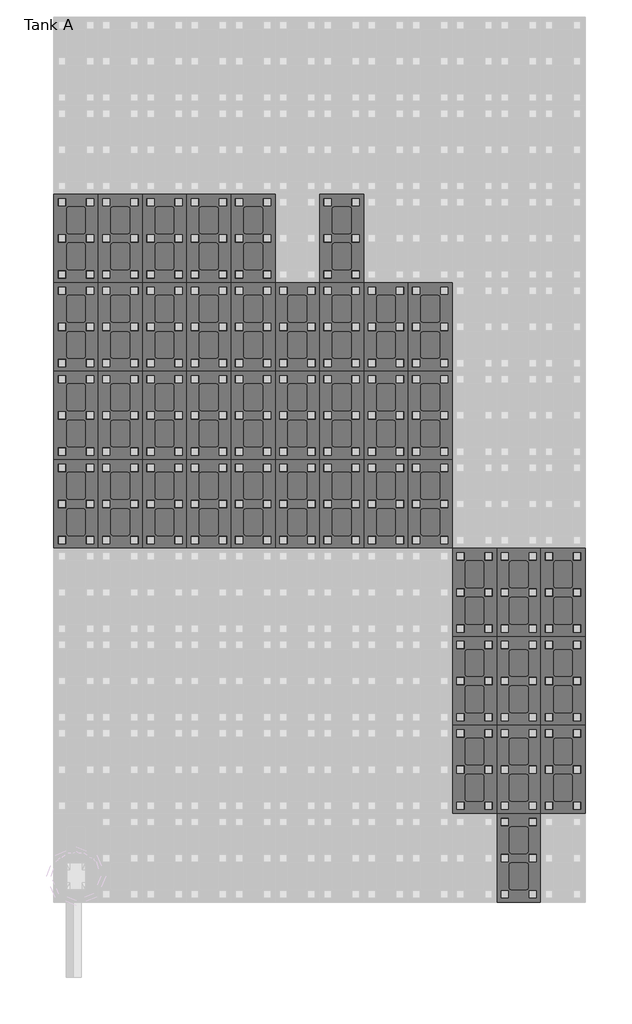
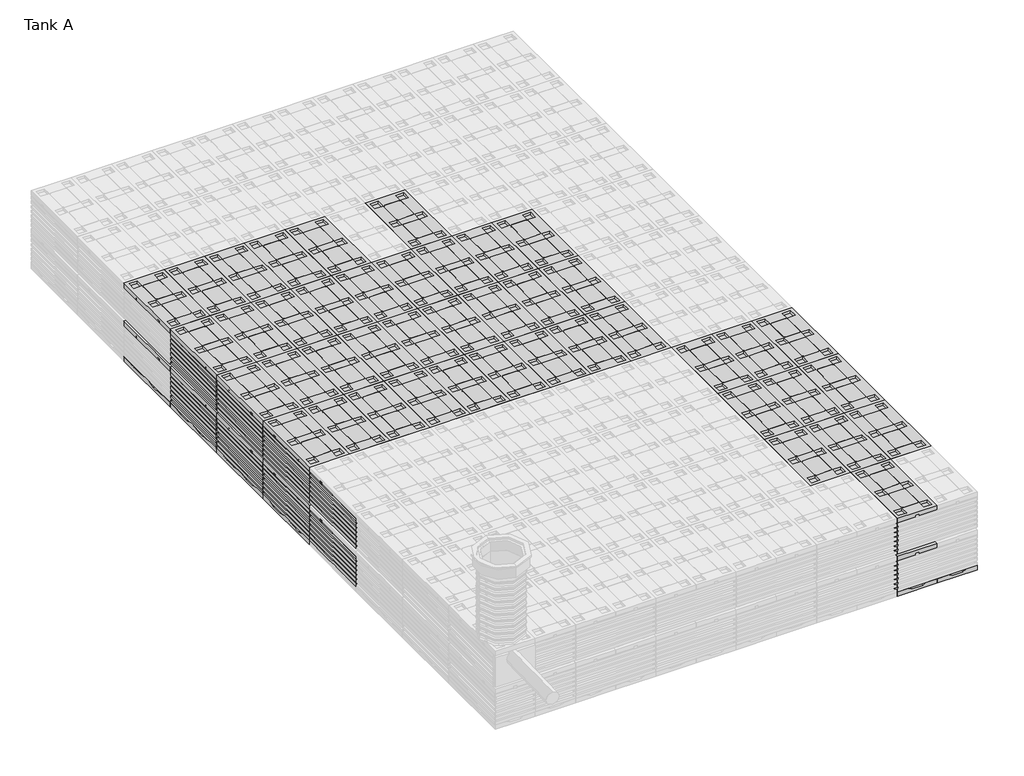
# One storey, part 2 of 6: 142 unitary equipment elements.
"""IFC4 building model written with IfcOpenShell, lengths in millimetres."""

from ifc_helpers import new_model, si_unit, origin, place, context, project, spatial, transform, mapped, element, save
from components import closed_bottom_plate_7d425a97, std_f31acf44, std_d7962c01

model = new_model("IFC4")

# Units and contexts
model_context = context("Model", 3, world=origin())
ifc_project = project(units=[si_unit("LENGTHUNIT", "METRE", prefix="MILLI")], contexts=[model_context])

# Site, building, storey
site = spatial("IfcSite", under=ifc_project)
building = spatial("IfcBuilding", under=site)
storey = spatial("IfcBuildingStorey", under=building, Name="Tank A", Elevation=-2300.0)

# Unitary equipment
placement = place(None, origin())
closed_bottom_plate_shape = closed_bottom_plate_7d425a97(model_context)
element("IfcUnitaryEquipment", 1, ObjectType="Z_ME_UN_Q-Bic_Plus_Bottom_Plate_Wavin_(nested) : Open bottom plate", at=placement, inside=storey, context=model_context, shape_type="MappedRepresentation", body=[
    mapped(closed_bottom_plate_shape, transform((9686.051096, -4439.2220602, -2230.0), x_axis=(0.0, 1.0000000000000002, 0.0), y_axis=(-1.0000000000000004, 0.0, 0.0), z_axis=(0.0, 0.0, 1.0000000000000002))),
])
element("IfcUnitaryEquipment", 2, ObjectType="Z_ME_UN_Q-Bic_Plus_Bottom_Plate_Wavin_(nested) : Open bottom plate", at=placement, inside=storey, context=model_context, shape_type="MappedRepresentation", body=[
    mapped(closed_bottom_plate_shape, transform((9686.051096, -3239.2220602, -2230.0), x_axis=(0.0, 1.0000000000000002, 0.0), y_axis=(-1.0000000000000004, 0.0, 0.0), z_axis=(0.0, 0.0, 1.0000000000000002))),
])
element("IfcUnitaryEquipment", 3, ObjectType="Z_ME_UN_Q-Bic_Plus_Bottom_Plate_Wavin_(nested) : Open bottom plate", at=placement, inside=storey, context=model_context, shape_type="MappedRepresentation", body=[
    mapped(closed_bottom_plate_shape, transform((9086.051096, -4439.2220602, -2230.0), x_axis=(0.0, 1.0, 0.0), y_axis=(-1.0000000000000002, 0.0, 0.0), z_axis=(0.0, 0.0, 1.0000000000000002))),
])
element("IfcUnitaryEquipment", 4, ObjectType="Z_ME_UN_Q-Bic_Plus_Bottom_Plate_Wavin_(nested) : Open bottom plate", at=placement, inside=storey, context=model_context, shape_type="MappedRepresentation", body=[
    mapped(closed_bottom_plate_shape, transform((9686.051096, -2039.2220602, -2230.0), x_axis=(0.0, 1.0, 0.0), y_axis=(-1.0000000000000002, 0.0, 0.0), z_axis=(0.0, 0.0, 1.0000000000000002))),
])
element("IfcUnitaryEquipment", 5, ObjectType="Z_ME_UN_Q-Bic_Plus_Bottom_Plate_Wavin_(nested) : Open bottom plate", at=placement, inside=storey, context=model_context, shape_type="MappedRepresentation", body=[
    mapped(closed_bottom_plate_shape, transform((9686.051096, -839.2220602, -2230.0), x_axis=(0.0, 1.0, 0.0), y_axis=(-1.0000000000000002, 0.0, 0.0), z_axis=(0.0, 0.0, 1.0000000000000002))),
])
element("IfcUnitaryEquipment", 6, ObjectType="Z_ME_UN_Q-Bic_Plus_Bottom_Plate_Wavin_(nested) : Open bottom plate", at=placement, inside=storey, context=model_context, shape_type="MappedRepresentation", body=[
    mapped(closed_bottom_plate_shape, transform((9086.051096, -3239.2220602, -2230.0), x_axis=(0.0, 1.0, 0.0), y_axis=(-1.0000000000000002, 0.0, 0.0), z_axis=(0.0, 0.0, 1.0000000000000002))),
])
element("IfcUnitaryEquipment", 7, ObjectType="Z_ME_UN_Q-Bic_Plus_Bottom_Plate_Wavin_(nested) : Open bottom plate", at=placement, inside=storey, context=model_context, shape_type="MappedRepresentation", body=[
    mapped(closed_bottom_plate_shape, transform((9086.051096, -2039.2220602, -2230.0), x_axis=(0.0, 1.0, 0.0), y_axis=(-1.0000000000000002, 0.0, 0.0), z_axis=(0.0, 0.0, 1.0000000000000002))),
])
element("IfcUnitaryEquipment", 8, ObjectType="Z_ME_UN_Q-Bic_Plus_Bottom_Plate_Wavin_(nested) : Open bottom plate", at=placement, inside=storey, context=model_context, shape_type="MappedRepresentation", body=[
    mapped(closed_bottom_plate_shape, transform((9086.051096, -839.2220602, -2230.0), x_axis=(0.0, 1.0, 0.0), y_axis=(-1.0000000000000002, 0.0, 0.0), z_axis=(0.0, 0.0, 1.0000000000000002))),
])
element("IfcUnitaryEquipment", 9, ObjectType="Z_ME_UN_Q-Bic_Plus_Bottom_Plate_Wavin_(nested) : Open bottom plate", at=placement, inside=storey, context=model_context, shape_type="MappedRepresentation", body=[
    mapped(closed_bottom_plate_shape, transform((8486.051096, -3239.2220602, -2230.0), x_axis=(0.0, 1.0, 0.0), y_axis=(-1.0000000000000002, 0.0, 0.0), z_axis=(0.0, 0.0, 1.0000000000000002))),
])
element("IfcUnitaryEquipment", 10, ObjectType="Z_ME_UN_Q-Bic_Plus_Bottom_Plate_Wavin_(nested) : Open bottom plate", at=placement, inside=storey, context=model_context, shape_type="MappedRepresentation", body=[
    mapped(closed_bottom_plate_shape, transform((8486.051096, -2039.2220602, -2230.0), x_axis=(0.0, 1.0, 0.0), y_axis=(-1.0000000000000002, 0.0, 0.0), z_axis=(0.0, 0.0, 1.0000000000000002))),
])
element("IfcUnitaryEquipment", 11, ObjectType="Z_ME_UN_Q-Bic_Plus_Bottom_Plate_Wavin_(nested) : Open bottom plate", at=placement, inside=storey, context=model_context, shape_type="MappedRepresentation", body=[
    mapped(closed_bottom_plate_shape, transform((8486.051096, -839.2220602, -2230.0), x_axis=(0.0, 1.0, 0.0), y_axis=(-1.0000000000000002, 0.0, 0.0), z_axis=(0.0, 0.0, 1.0000000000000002))),
])
element("IfcUnitaryEquipment", 12, ObjectType="Z_ME_UN_Q-Bic_Plus_Bottom_Plate_Wavin_(nested) : Open bottom plate", at=placement, inside=storey, context=model_context, shape_type="MappedRepresentation", body=[
    mapped(closed_bottom_plate_shape, transform((7886.051096, 360.7779398, -2230.0), x_axis=(0.0, 1.0, 0.0), y_axis=(-1.0000000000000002, 0.0, 0.0), z_axis=(0.0, 0.0, 1.0000000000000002))),
])
element("IfcUnitaryEquipment", 13, ObjectType="Z_ME_UN_Q-Bic_Plus_Bottom_Plate_Wavin_(nested) : Open bottom plate", at=placement, inside=storey, context=model_context, shape_type="MappedRepresentation", body=[
    mapped(closed_bottom_plate_shape, transform((7886.051096, 1560.7779398, -2230.0), x_axis=(0.0, 1.0, 0.0), y_axis=(-1.0000000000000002, 0.0, 0.0), z_axis=(0.0, 0.0, 1.0000000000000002))),
])
element("IfcUnitaryEquipment", 14, ObjectType="Z_ME_UN_Q-Bic_Plus_Bottom_Plate_Wavin_(nested) : Open bottom plate", at=placement, inside=storey, context=model_context, shape_type="MappedRepresentation", body=[
    mapped(closed_bottom_plate_shape, transform((7886.051096, 2760.7779398, -2230.0), x_axis=(0.0, 1.0, 0.0), y_axis=(-1.0000000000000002, 0.0, 0.0), z_axis=(0.0, 0.0, 1.0000000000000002))),
])
element("IfcUnitaryEquipment", 15, ObjectType="Z_ME_UN_Q-Bic_Plus_Bottom_Plate_Wavin_(nested) : Open bottom plate", at=placement, inside=storey, context=model_context, shape_type="MappedRepresentation", body=[
    mapped(closed_bottom_plate_shape, transform((7286.051096, 360.7779398, -2230.0), x_axis=(0.0, 1.0, 0.0), y_axis=(-1.0000000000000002, 0.0, 0.0), z_axis=(0.0, 0.0, 1.0000000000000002))),
])
element("IfcUnitaryEquipment", 16, ObjectType="Z_ME_UN_Q-Bic_Plus_Bottom_Plate_Wavin_(nested) : Open bottom plate", at=placement, inside=storey, context=model_context, shape_type="MappedRepresentation", body=[
    mapped(closed_bottom_plate_shape, transform((7286.051096, 1560.7779398, -2230.0), x_axis=(0.0, 1.0, 0.0), y_axis=(-1.0000000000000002, 0.0, 0.0), z_axis=(0.0, 0.0, 1.0000000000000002))),
])
element("IfcUnitaryEquipment", 17, ObjectType="Z_ME_UN_Q-Bic_Plus_Bottom_Plate_Wavin_(nested) : Open bottom plate", at=placement, inside=storey, context=model_context, shape_type="MappedRepresentation", body=[
    mapped(closed_bottom_plate_shape, transform((7286.051096, 2760.7779398, -2230.0), x_axis=(0.0, 1.0, 0.0), y_axis=(-1.0000000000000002, 0.0, 0.0), z_axis=(0.0, 0.0, 1.0000000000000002))),
])
element("IfcUnitaryEquipment", 18, ObjectType="Z_ME_UN_Q-Bic_Plus_Bottom_Plate_Wavin_(nested) : Open bottom plate", at=placement, inside=storey, context=model_context, shape_type="MappedRepresentation", body=[
    mapped(closed_bottom_plate_shape, transform((6686.051096, 360.7779398, -2230.0), x_axis=(0.0, 1.0, 0.0), y_axis=(-1.0000000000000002, 0.0, 0.0), z_axis=(0.0, 0.0, 1.0000000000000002))),
])
element("IfcUnitaryEquipment", 19, ObjectType="Z_ME_UN_Q-Bic_Plus_Bottom_Plate_Wavin_(nested) : Open bottom plate", at=placement, inside=storey, context=model_context, shape_type="MappedRepresentation", body=[
    mapped(closed_bottom_plate_shape, transform((6686.051096, 1560.7779398, -2230.0), x_axis=(0.0, 1.0, 0.0), y_axis=(-1.0000000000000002, 0.0, 0.0), z_axis=(0.0, 0.0, 1.0000000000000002))),
])
element("IfcUnitaryEquipment", 20, ObjectType="Z_ME_UN_Q-Bic_Plus_Bottom_Plate_Wavin_(nested) : Open bottom plate", at=placement, inside=storey, context=model_context, shape_type="MappedRepresentation", body=[
    mapped(closed_bottom_plate_shape, transform((6686.051096, 2760.7779398, -2230.0), x_axis=(0.0, 1.0, 0.0), y_axis=(-1.0000000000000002, 0.0, 0.0), z_axis=(0.0, 0.0, 1.0000000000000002))),
])
element("IfcUnitaryEquipment", 21, ObjectType="Z_ME_UN_Q-Bic_Plus_Bottom_Plate_Wavin_(nested) : Open bottom plate", at=placement, inside=storey, context=model_context, shape_type="MappedRepresentation", body=[
    mapped(closed_bottom_plate_shape, transform((6086.051096, 360.7779398, -2230.0), x_axis=(0.0, 1.0, 0.0), y_axis=(-1.0000000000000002, 0.0, 0.0), z_axis=(0.0, 0.0, 1.0000000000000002))),
])
element("IfcUnitaryEquipment", 22, ObjectType="Z_ME_UN_Q-Bic_Plus_Bottom_Plate_Wavin_(nested) : Open bottom plate", at=placement, inside=storey, context=model_context, shape_type="MappedRepresentation", body=[
    mapped(closed_bottom_plate_shape, transform((6086.051096, 1560.7779398, -2230.0), x_axis=(0.0, 1.0, 0.0), y_axis=(-1.0000000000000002, 0.0, 0.0), z_axis=(0.0, 0.0, 1.0000000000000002))),
])
element("IfcUnitaryEquipment", 23, ObjectType="Z_ME_UN_Q-Bic_Plus_Bottom_Plate_Wavin_(nested) : Open bottom plate", at=placement, inside=storey, context=model_context, shape_type="MappedRepresentation", body=[
    mapped(closed_bottom_plate_shape, transform((6086.051096, 2760.7779398, -2230.0), x_axis=(0.0, 1.0, 0.0), y_axis=(-1.0000000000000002, 0.0, 0.0), z_axis=(0.0, 0.0, 1.0000000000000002))),
])
element("IfcUnitaryEquipment", 24, ObjectType="Z_ME_UN_Q-Bic_Plus_Bottom_Plate_Wavin_(nested) : Open bottom plate", at=placement, inside=storey, context=model_context, shape_type="MappedRepresentation", body=[
    mapped(closed_bottom_plate_shape, transform((5486.051096, 360.7779398, -2230.0), x_axis=(0.0, 1.0, 0.0), y_axis=(-1.0000000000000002, 0.0, 0.0), z_axis=(0.0, 0.0, 1.0000000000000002))),
])
element("IfcUnitaryEquipment", 25, ObjectType="Z_ME_UN_Q-Bic_Plus_Bottom_Plate_Wavin_(nested) : Open bottom plate", at=placement, inside=storey, context=model_context, shape_type="MappedRepresentation", body=[
    mapped(closed_bottom_plate_shape, transform((5486.051096, 1560.7779398, -2230.0), x_axis=(0.0, 1.0, 0.0), y_axis=(-1.0000000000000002, 0.0, 0.0), z_axis=(0.0, 0.0, 1.0000000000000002))),
])
element("IfcUnitaryEquipment", 26, ObjectType="Z_ME_UN_Q-Bic_Plus_Bottom_Plate_Wavin_(nested) : Open bottom plate", at=placement, inside=storey, context=model_context, shape_type="MappedRepresentation", body=[
    mapped(closed_bottom_plate_shape, transform((5486.051096, 2760.7779398, -2230.0), x_axis=(0.0, 1.0, 0.0), y_axis=(-1.0000000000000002, 0.0, 0.0), z_axis=(0.0, 0.0, 1.0000000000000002))),
])
element("IfcUnitaryEquipment", 27, ObjectType="Z_ME_UN_Q-Bic_Plus_Bottom_Plate_Wavin_(nested) : Open bottom plate", at=placement, inside=storey, context=model_context, shape_type="MappedRepresentation", body=[
    mapped(closed_bottom_plate_shape, transform((5486.051096, 3960.7779398, -2230.0), x_axis=(0.0, 1.0, 0.0), y_axis=(-1.0000000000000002, 0.0, 0.0), z_axis=(0.0, 0.0, 1.0000000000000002))),
])
element("IfcUnitaryEquipment", 28, ObjectType="Z_ME_UN_Q-Bic_Plus_Bottom_Plate_Wavin_(nested) : Open bottom plate", at=placement, inside=storey, context=model_context, shape_type="MappedRepresentation", body=[
    mapped(closed_bottom_plate_shape, transform((4886.051096, 360.7779398, -2230.0), x_axis=(0.0, 1.0, 0.0), y_axis=(-1.0000000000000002, 0.0, 0.0), z_axis=(0.0, 0.0, 1.0000000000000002))),
])
element("IfcUnitaryEquipment", 29, ObjectType="Z_ME_UN_Q-Bic_Plus_Bottom_Plate_Wavin_(nested) : Open bottom plate", at=placement, inside=storey, context=model_context, shape_type="MappedRepresentation", body=[
    mapped(closed_bottom_plate_shape, transform((4886.051096, 1560.7779398, -2230.0), x_axis=(0.0, 1.0, 0.0), y_axis=(-1.0000000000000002, 0.0, 0.0), z_axis=(0.0, 0.0, 1.0000000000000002))),
])
element("IfcUnitaryEquipment", 30, ObjectType="Z_ME_UN_Q-Bic_Plus_Bottom_Plate_Wavin_(nested) : Open bottom plate", at=placement, inside=storey, context=model_context, shape_type="MappedRepresentation", body=[
    mapped(closed_bottom_plate_shape, transform((4886.051096, 2760.7779398, -2230.0), x_axis=(0.0, 1.0, 0.0), y_axis=(-1.0000000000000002, 0.0, 0.0), z_axis=(0.0, 0.0, 1.0000000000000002))),
])
element("IfcUnitaryEquipment", 31, ObjectType="Z_ME_UN_Q-Bic_Plus_Bottom_Plate_Wavin_(nested) : Open bottom plate", at=placement, inside=storey, context=model_context, shape_type="MappedRepresentation", body=[
    mapped(closed_bottom_plate_shape, transform((4886.051096, 3960.7779398, -2230.0), x_axis=(0.0, 1.0, 0.0), y_axis=(-1.0000000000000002, 0.0, 0.0), z_axis=(0.0, 0.0, 1.0000000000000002))),
])
element("IfcUnitaryEquipment", 32, ObjectType="Z_ME_UN_Q-Bic_Plus_Bottom_Plate_Wavin_(nested) : Open bottom plate", at=placement, inside=storey, context=model_context, shape_type="MappedRepresentation", body=[
    mapped(closed_bottom_plate_shape, transform((4286.051096, 360.7779398, -2230.0), x_axis=(0.0, 1.0, 0.0), y_axis=(-1.0000000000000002, 0.0, 0.0), z_axis=(0.0, 0.0, 1.0000000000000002))),
])
element("IfcUnitaryEquipment", 33, ObjectType="Z_ME_UN_Q-Bic_Plus_Bottom_Plate_Wavin_(nested) : Open bottom plate", at=placement, inside=storey, context=model_context, shape_type="MappedRepresentation", body=[
    mapped(closed_bottom_plate_shape, transform((4286.051096, 1560.7779398, -2230.0), x_axis=(0.0, 1.0, 0.0), y_axis=(-1.0000000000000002, 0.0, 0.0), z_axis=(0.0, 0.0, 1.0000000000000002))),
])
element("IfcUnitaryEquipment", 34, ObjectType="Z_ME_UN_Q-Bic_Plus_Bottom_Plate_Wavin_(nested) : Open bottom plate", at=placement, inside=storey, context=model_context, shape_type="MappedRepresentation", body=[
    mapped(closed_bottom_plate_shape, transform((4286.051096, 2760.7779398, -2230.0), x_axis=(0.0, 1.0, 0.0), y_axis=(-1.0000000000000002, 0.0, 0.0), z_axis=(0.0, 0.0, 1.0000000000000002))),
])
element("IfcUnitaryEquipment", 35, ObjectType="Z_ME_UN_Q-Bic_Plus_Bottom_Plate_Wavin_(nested) : Open bottom plate", at=placement, inside=storey, context=model_context, shape_type="MappedRepresentation", body=[
    mapped(closed_bottom_plate_shape, transform((4286.051096, 3960.7779398, -2230.0), x_axis=(0.0, 1.0, 0.0), y_axis=(-1.0000000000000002, 0.0, 0.0), z_axis=(0.0, 0.0, 1.0000000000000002))),
])
element("IfcUnitaryEquipment", 36, ObjectType="Z_ME_UN_Q-Bic_Plus_Bottom_Plate_Wavin_(nested) : Open bottom plate", at=placement, inside=storey, context=model_context, shape_type="MappedRepresentation", body=[
    mapped(closed_bottom_plate_shape, transform((3686.051096, 360.7779398, -2230.0), x_axis=(0.0, 1.0, 0.0), y_axis=(-1.0000000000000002, 0.0, 0.0), z_axis=(0.0, 0.0, 1.0000000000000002))),
])
element("IfcUnitaryEquipment", 37, ObjectType="Z_ME_UN_Q-Bic_Plus_Bottom_Plate_Wavin_(nested) : Open bottom plate", at=placement, inside=storey, context=model_context, shape_type="MappedRepresentation", body=[
    mapped(closed_bottom_plate_shape, transform((3686.051096, 1560.7779398, -2230.0), x_axis=(0.0, 1.0, 0.0), y_axis=(-1.0000000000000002, 0.0, 0.0), z_axis=(0.0, 0.0, 1.0000000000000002))),
])
element("IfcUnitaryEquipment", 38, ObjectType="Z_ME_UN_Q-Bic_Plus_Bottom_Plate_Wavin_(nested) : Open bottom plate", at=placement, inside=storey, context=model_context, shape_type="MappedRepresentation", body=[
    mapped(closed_bottom_plate_shape, transform((3686.051096, 2760.7779398, -2230.0), x_axis=(0.0, 1.0, 0.0), y_axis=(-1.0000000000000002, 0.0, 0.0), z_axis=(0.0, 0.0, 1.0000000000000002))),
])
element("IfcUnitaryEquipment", 39, ObjectType="Z_ME_UN_Q-Bic_Plus_Bottom_Plate_Wavin_(nested) : Open bottom plate", at=placement, inside=storey, context=model_context, shape_type="MappedRepresentation", body=[
    mapped(closed_bottom_plate_shape, transform((3686.051096, 3960.7779398, -2230.0), x_axis=(0.0, 1.0, 0.0), y_axis=(-1.0000000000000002, 0.0, 0.0), z_axis=(0.0, 0.0, 1.0000000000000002))),
])
element("IfcUnitaryEquipment", 40, ObjectType="Z_ME_UN_Q-Bic_Plus_Bottom_Plate_Wavin_(nested) : Open bottom plate", at=placement, inside=storey, context=model_context, shape_type="MappedRepresentation", body=[
    mapped(closed_bottom_plate_shape, transform((3086.051096, 360.7779398, -2230.0), x_axis=(0.0, 1.0, 0.0), y_axis=(-1.0000000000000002, 0.0, 0.0), z_axis=(0.0, 0.0, 1.0000000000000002))),
])
element("IfcUnitaryEquipment", 41, ObjectType="Z_ME_UN_Q-Bic_Plus_Bottom_Plate_Wavin_(nested) : Open bottom plate", at=placement, inside=storey, context=model_context, shape_type="MappedRepresentation", body=[
    mapped(closed_bottom_plate_shape, transform((3086.051096, 1560.7779398, -2230.0), x_axis=(0.0, 1.0, 0.0), y_axis=(-1.0000000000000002, 0.0, 0.0), z_axis=(0.0, 0.0, 1.0000000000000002))),
])
element("IfcUnitaryEquipment", 42, ObjectType="Z_ME_UN_Q-Bic_Plus_Bottom_Plate_Wavin_(nested) : Open bottom plate", at=placement, inside=storey, context=model_context, shape_type="MappedRepresentation", body=[
    mapped(closed_bottom_plate_shape, transform((3086.051096, 2760.7779398, -2230.0), x_axis=(0.0, 1.0, 0.0), y_axis=(-1.0000000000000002, 0.0, 0.0), z_axis=(0.0, 0.0, 1.0000000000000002))),
])
element("IfcUnitaryEquipment", 43, ObjectType="Z_ME_UN_Q-Bic_Plus_Bottom_Plate_Wavin_(nested) : Open bottom plate", at=placement, inside=storey, context=model_context, shape_type="MappedRepresentation", body=[
    mapped(closed_bottom_plate_shape, transform((3086.051096, 3960.7779398, -2230.0), x_axis=(0.0, 1.0, 0.0), y_axis=(-1.0000000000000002, 0.0, 0.0), z_axis=(0.0, 0.0, 1.0000000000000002))),
])
std_shape = std_f31acf44(model_context)
element("IfcUnitaryEquipment", 44, ObjectType="Z_ME_UN_Q-Bic_Plus_Lateral_Side_Plate_Wavin_(nested) : std", at=placement, inside=storey, context=model_context, shape_type="MappedRepresentation", body=[
    mapped(std_shape, transform((9686.051096, -839.2220602, -2330.0), x_axis=(0.0, 1.0000000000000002, 0.0), y_axis=(-1.0000000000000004, 0.0, 0.0), z_axis=(0.0, 0.0, 1.0000000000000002))),
])
element("IfcUnitaryEquipment", 45, ObjectType="Z_ME_UN_Q-Bic_Plus_Lateral_Side_Plate_Wavin_(nested) : std", at=placement, inside=storey, context=model_context, shape_type="MappedRepresentation", body=[
    mapped(std_shape, transform((9686.051096, -839.2220602, -1730.0), x_axis=(0.0, 1.0000000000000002, 0.0), y_axis=(-1.0000000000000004, 0.0, 0.0), z_axis=(0.0, 0.0, 1.0000000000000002))),
])
element("IfcUnitaryEquipment", 46, ObjectType="Z_ME_UN_Q-Bic_Plus_Lateral_Side_Plate_Wavin_(nested) : std", at=placement, inside=storey, context=model_context, shape_type="MappedRepresentation", body=[
    mapped(std_shape, transform((9686.051096, -2039.2220602, -2330.0), x_axis=(0.0, 1.0000000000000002, 0.0), y_axis=(-1.0000000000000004, 0.0, 0.0), z_axis=(0.0, 0.0, 1.0000000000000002))),
])
element("IfcUnitaryEquipment", 47, ObjectType="Z_ME_UN_Q-Bic_Plus_Lateral_Side_Plate_Wavin_(nested) : std", at=placement, inside=storey, context=model_context, shape_type="MappedRepresentation", body=[
    mapped(std_shape, transform((9686.051096, -2039.2220602, -1730.0), x_axis=(0.0, 1.0000000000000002, 0.0), y_axis=(-1.0000000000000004, 0.0, 0.0), z_axis=(0.0, 0.0, 1.0000000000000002))),
])
element("IfcUnitaryEquipment", 48, ObjectType="Z_ME_UN_Q-Bic_Plus_Lateral_Side_Plate_Wavin_(nested) : std", at=placement, inside=storey, context=model_context, shape_type="MappedRepresentation", body=[
    mapped(std_shape, transform((9686.051096, -3239.2220602, -2330.0), x_axis=(0.0, 1.0000000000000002, 0.0), y_axis=(-1.0000000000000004, 0.0, 0.0), z_axis=(0.0, 0.0, 1.0000000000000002))),
])
element("IfcUnitaryEquipment", 49, ObjectType="Z_ME_UN_Q-Bic_Plus_Lateral_Side_Plate_Wavin_(nested) : std", at=placement, inside=storey, context=model_context, shape_type="MappedRepresentation", body=[
    mapped(std_shape, transform((9686.051096, -3239.2220602, -1730.0), x_axis=(0.0, 1.0000000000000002, 0.0), y_axis=(-1.0000000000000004, 0.0, 0.0), z_axis=(0.0, 0.0, 1.0000000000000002))),
])
element("IfcUnitaryEquipment", 50, ObjectType="Z_ME_UN_Q-Bic_Plus_Lateral_Side_Plate_Wavin_(nested) : std", at=placement, inside=storey, context=model_context, shape_type="MappedRepresentation", body=[
    mapped(std_shape, transform((2486.051096, 360.7779398, -2330.0), x_axis=(0.0, -1.0000000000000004, 0.0), y_axis=(1.0000000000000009, 0.0, 0.0), z_axis=(0.0, 0.0, 1.0000000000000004))),
])
element("IfcUnitaryEquipment", 51, ObjectType="Z_ME_UN_Q-Bic_Plus_Lateral_Side_Plate_Wavin_(nested) : std", at=placement, inside=storey, context=model_context, shape_type="MappedRepresentation", body=[
    mapped(std_shape, transform((2486.051096, 360.7779398, -1730.0), x_axis=(0.0, -1.0000000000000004, 0.0), y_axis=(1.0000000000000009, 0.0, 0.0), z_axis=(0.0, 0.0, 1.0000000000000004))),
])
element("IfcUnitaryEquipment", 52, ObjectType="Z_ME_UN_Q-Bic_Plus_Lateral_Side_Plate_Wavin_(nested) : std", at=placement, inside=storey, context=model_context, shape_type="MappedRepresentation", body=[
    mapped(std_shape, transform((2486.051096, 1560.7779398, -2330.0), x_axis=(0.0, -1.0000000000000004, 0.0), y_axis=(1.0000000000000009, 0.0, 0.0), z_axis=(0.0, 0.0, 1.0000000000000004))),
])
element("IfcUnitaryEquipment", 53, ObjectType="Z_ME_UN_Q-Bic_Plus_Lateral_Side_Plate_Wavin_(nested) : std", at=placement, inside=storey, context=model_context, shape_type="MappedRepresentation", body=[
    mapped(std_shape, transform((2486.051096, 1560.7779398, -1730.0), x_axis=(0.0, -1.0000000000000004, 0.0), y_axis=(1.0000000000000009, 0.0, 0.0), z_axis=(0.0, 0.0, 1.0000000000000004))),
])
element("IfcUnitaryEquipment", 54, ObjectType="Z_ME_UN_Q-Bic_Plus_Lateral_Side_Plate_Wavin_(nested) : std", at=placement, inside=storey, context=model_context, shape_type="MappedRepresentation", body=[
    mapped(std_shape, transform((2486.051096, 2760.7779398, -2330.0), x_axis=(0.0, -1.0000000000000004, 0.0), y_axis=(1.0000000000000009, 0.0, 0.0), z_axis=(0.0, 0.0, 1.0000000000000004))),
])
element("IfcUnitaryEquipment", 55, ObjectType="Z_ME_UN_Q-Bic_Plus_Lateral_Side_Plate_Wavin_(nested) : std", at=placement, inside=storey, context=model_context, shape_type="MappedRepresentation", body=[
    mapped(std_shape, transform((2486.051096, 2760.7779398, -1730.0), x_axis=(0.0, -1.0000000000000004, 0.0), y_axis=(1.0000000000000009, 0.0, 0.0), z_axis=(0.0, 0.0, 1.0000000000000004))),
])
element("IfcUnitaryEquipment", 56, ObjectType="Z_ME_UN_Q-Bic_Plus_Lateral_Side_Plate_Wavin_(nested) : std", at=placement, inside=storey, context=model_context, shape_type="MappedRepresentation", body=[
    mapped(std_shape, transform((2486.051096, 3960.7779398, -2330.0), x_axis=(0.0, -1.0000000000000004, 0.0), y_axis=(1.0000000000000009, 0.0, 0.0), z_axis=(0.0, 0.0, 1.0000000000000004))),
])
element("IfcUnitaryEquipment", 57, ObjectType="Z_ME_UN_Q-Bic_Plus_Lateral_Side_Plate_Wavin_(nested) : std", at=placement, inside=storey, context=model_context, shape_type="MappedRepresentation", body=[
    mapped(std_shape, transform((2486.051096, 3960.7779398, -1730.0), x_axis=(0.0, -1.0000000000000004, 0.0), y_axis=(1.0000000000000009, 0.0, 0.0), z_axis=(0.0, 0.0, 1.0000000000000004))),
])
std_2_shape = std_d7962c01(model_context)
element("IfcUnitaryEquipment", 58, ObjectType="Z_ME_UN_Q-Bic_Plus_Infiltration_Unit_Wavin_(nested) : std", at=placement, inside=storey, context=model_context, shape_type="MappedRepresentation", body=[
    mapped(std_2_shape, transform((9686.051096, -3239.2220602, -1670.0), x_axis=(0.0, 1.0000000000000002, 0.0), y_axis=(-1.0000000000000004, 0.0, 0.0), z_axis=(0.0, 0.0, 1.0000000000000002))),
])
element("IfcUnitaryEquipment", 59, ObjectType="Z_ME_UN_Q-Bic_Plus_Infiltration_Unit_Wavin_(nested) : std", at=placement, inside=storey, context=model_context, shape_type="MappedRepresentation", body=[
    mapped(std_2_shape, transform((9686.051096, -3239.2220602, -2270.0), x_axis=(0.0, 1.0000000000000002, 0.0), y_axis=(-1.0000000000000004, 0.0, 0.0), z_axis=(0.0, 0.0, 1.0000000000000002))),
])
element("IfcUnitaryEquipment", 60, ObjectType="Z_ME_UN_Q-Bic_Plus_Infiltration_Unit_Wavin_(nested) : std", at=placement, inside=storey, context=model_context, shape_type="MappedRepresentation", body=[
    mapped(std_2_shape, transform((9086.051096, -4439.2220602, -1670.0), x_axis=(0.0, 1.0, 0.0), y_axis=(-1.0000000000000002, 0.0, 0.0), z_axis=(0.0, 0.0, 1.0000000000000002))),
])
element("IfcUnitaryEquipment", 61, ObjectType="Z_ME_UN_Q-Bic_Plus_Infiltration_Unit_Wavin_(nested) : std", at=placement, inside=storey, context=model_context, shape_type="MappedRepresentation", body=[
    mapped(std_2_shape, transform((9086.051096, -4439.2220602, -2270.0), x_axis=(0.0, 1.0, 0.0), y_axis=(-1.0000000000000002, 0.0, 0.0), z_axis=(0.0, 0.0, 1.0000000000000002))),
])
element("IfcUnitaryEquipment", 62, ObjectType="Z_ME_UN_Q-Bic_Plus_Infiltration_Unit_Wavin_(nested) : std", at=placement, inside=storey, context=model_context, shape_type="MappedRepresentation", body=[
    mapped(std_2_shape, transform((9686.051096, -2039.2220602, -1670.0), x_axis=(0.0, 1.0, 0.0), y_axis=(-1.0000000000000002, 0.0, 0.0), z_axis=(0.0, 0.0, 1.0000000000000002))),
])
element("IfcUnitaryEquipment", 63, ObjectType="Z_ME_UN_Q-Bic_Plus_Infiltration_Unit_Wavin_(nested) : std", at=placement, inside=storey, context=model_context, shape_type="MappedRepresentation", body=[
    mapped(std_2_shape, transform((9686.051096, -2039.2220602, -2270.0), x_axis=(0.0, 1.0, 0.0), y_axis=(-1.0000000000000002, 0.0, 0.0), z_axis=(0.0, 0.0, 1.0000000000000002))),
])
element("IfcUnitaryEquipment", 64, ObjectType="Z_ME_UN_Q-Bic_Plus_Infiltration_Unit_Wavin_(nested) : std", at=placement, inside=storey, context=model_context, shape_type="MappedRepresentation", body=[
    mapped(std_2_shape, transform((9686.051096, -839.2220602, -1670.0), x_axis=(0.0, 1.0, 0.0), y_axis=(-1.0000000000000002, 0.0, 0.0), z_axis=(0.0, 0.0, 1.0000000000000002))),
])
element("IfcUnitaryEquipment", 65, ObjectType="Z_ME_UN_Q-Bic_Plus_Infiltration_Unit_Wavin_(nested) : std", at=placement, inside=storey, context=model_context, shape_type="MappedRepresentation", body=[
    mapped(std_2_shape, transform((9686.051096, -839.2220602, -2270.0), x_axis=(0.0, 1.0, 0.0), y_axis=(-1.0000000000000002, 0.0, 0.0), z_axis=(0.0, 0.0, 1.0000000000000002))),
])
element("IfcUnitaryEquipment", 66, ObjectType="Z_ME_UN_Q-Bic_Plus_Infiltration_Unit_Wavin_(nested) : std", at=placement, inside=storey, context=model_context, shape_type="MappedRepresentation", body=[
    mapped(std_2_shape, transform((9086.051096, -3239.2220602, -1670.0), x_axis=(0.0, 1.0, 0.0), y_axis=(-1.0000000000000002, 0.0, 0.0), z_axis=(0.0, 0.0, 1.0000000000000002))),
])
element("IfcUnitaryEquipment", 67, ObjectType="Z_ME_UN_Q-Bic_Plus_Infiltration_Unit_Wavin_(nested) : std", at=placement, inside=storey, context=model_context, shape_type="MappedRepresentation", body=[
    mapped(std_2_shape, transform((9086.051096, -3239.2220602, -2270.0), x_axis=(0.0, 1.0, 0.0), y_axis=(-1.0000000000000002, 0.0, 0.0), z_axis=(0.0, 0.0, 1.0000000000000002))),
])
element("IfcUnitaryEquipment", 68, ObjectType="Z_ME_UN_Q-Bic_Plus_Infiltration_Unit_Wavin_(nested) : std", at=placement, inside=storey, context=model_context, shape_type="MappedRepresentation", body=[
    mapped(std_2_shape, transform((9086.051096, -2039.2220602, -1670.0), x_axis=(0.0, 1.0, 0.0), y_axis=(-1.0000000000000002, 0.0, 0.0), z_axis=(0.0, 0.0, 1.0000000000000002))),
])
element("IfcUnitaryEquipment", 69, ObjectType="Z_ME_UN_Q-Bic_Plus_Infiltration_Unit_Wavin_(nested) : std", at=placement, inside=storey, context=model_context, shape_type="MappedRepresentation", body=[
    mapped(std_2_shape, transform((9086.051096, -2039.2220602, -2270.0), x_axis=(0.0, 1.0, 0.0), y_axis=(-1.0000000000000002, 0.0, 0.0), z_axis=(0.0, 0.0, 1.0000000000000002))),
])
element("IfcUnitaryEquipment", 70, ObjectType="Z_ME_UN_Q-Bic_Plus_Infiltration_Unit_Wavin_(nested) : std", at=placement, inside=storey, context=model_context, shape_type="MappedRepresentation", body=[
    mapped(std_2_shape, transform((9086.051096, -839.2220602, -1670.0), x_axis=(0.0, 1.0, 0.0), y_axis=(-1.0000000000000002, 0.0, 0.0), z_axis=(0.0, 0.0, 1.0000000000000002))),
])
element("IfcUnitaryEquipment", 71, ObjectType="Z_ME_UN_Q-Bic_Plus_Infiltration_Unit_Wavin_(nested) : std", at=placement, inside=storey, context=model_context, shape_type="MappedRepresentation", body=[
    mapped(std_2_shape, transform((9086.051096, -839.2220602, -2270.0), x_axis=(0.0, 1.0, 0.0), y_axis=(-1.0000000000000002, 0.0, 0.0), z_axis=(0.0, 0.0, 1.0000000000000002))),
])
element("IfcUnitaryEquipment", 72, ObjectType="Z_ME_UN_Q-Bic_Plus_Infiltration_Unit_Wavin_(nested) : std", at=placement, inside=storey, context=model_context, shape_type="MappedRepresentation", body=[
    mapped(std_2_shape, transform((8486.051096, -3239.2220602, -1670.0), x_axis=(0.0, 1.0, 0.0), y_axis=(-1.0000000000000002, 0.0, 0.0), z_axis=(0.0, 0.0, 1.0000000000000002))),
])
element("IfcUnitaryEquipment", 73, ObjectType="Z_ME_UN_Q-Bic_Plus_Infiltration_Unit_Wavin_(nested) : std", at=placement, inside=storey, context=model_context, shape_type="MappedRepresentation", body=[
    mapped(std_2_shape, transform((8486.051096, -3239.2220602, -2270.0), x_axis=(0.0, 1.0, 0.0), y_axis=(-1.0000000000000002, 0.0, 0.0), z_axis=(0.0, 0.0, 1.0000000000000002))),
])
element("IfcUnitaryEquipment", 74, ObjectType="Z_ME_UN_Q-Bic_Plus_Infiltration_Unit_Wavin_(nested) : std", at=placement, inside=storey, context=model_context, shape_type="MappedRepresentation", body=[
    mapped(std_2_shape, transform((8486.051096, -2039.2220602, -1670.0), x_axis=(0.0, 1.0, 0.0), y_axis=(-1.0000000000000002, 0.0, 0.0), z_axis=(0.0, 0.0, 1.0000000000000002))),
])
element("IfcUnitaryEquipment", 75, ObjectType="Z_ME_UN_Q-Bic_Plus_Infiltration_Unit_Wavin_(nested) : std", at=placement, inside=storey, context=model_context, shape_type="MappedRepresentation", body=[
    mapped(std_2_shape, transform((8486.051096, -2039.2220602, -2270.0), x_axis=(0.0, 1.0, 0.0), y_axis=(-1.0000000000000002, 0.0, 0.0), z_axis=(0.0, 0.0, 1.0000000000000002))),
])
element("IfcUnitaryEquipment", 76, ObjectType="Z_ME_UN_Q-Bic_Plus_Infiltration_Unit_Wavin_(nested) : std", at=placement, inside=storey, context=model_context, shape_type="MappedRepresentation", body=[
    mapped(std_2_shape, transform((8486.051096, -839.2220602, -1670.0), x_axis=(0.0, 1.0, 0.0), y_axis=(-1.0000000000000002, 0.0, 0.0), z_axis=(0.0, 0.0, 1.0000000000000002))),
])
element("IfcUnitaryEquipment", 77, ObjectType="Z_ME_UN_Q-Bic_Plus_Infiltration_Unit_Wavin_(nested) : std", at=placement, inside=storey, context=model_context, shape_type="MappedRepresentation", body=[
    mapped(std_2_shape, transform((8486.051096, -839.2220602, -2270.0), x_axis=(0.0, 1.0, 0.0), y_axis=(-1.0000000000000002, 0.0, 0.0), z_axis=(0.0, 0.0, 1.0000000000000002))),
])
element("IfcUnitaryEquipment", 78, ObjectType="Z_ME_UN_Q-Bic_Plus_Infiltration_Unit_Wavin_(nested) : std", at=placement, inside=storey, context=model_context, shape_type="MappedRepresentation", body=[
    mapped(std_2_shape, transform((7886.051096, 360.7779398, -1670.0), x_axis=(0.0, 1.0, 0.0), y_axis=(-1.0000000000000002, 0.0, 0.0), z_axis=(0.0, 0.0, 1.0000000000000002))),
])
element("IfcUnitaryEquipment", 79, ObjectType="Z_ME_UN_Q-Bic_Plus_Infiltration_Unit_Wavin_(nested) : std", at=placement, inside=storey, context=model_context, shape_type="MappedRepresentation", body=[
    mapped(std_2_shape, transform((7886.051096, 360.7779398, -2270.0), x_axis=(0.0, 1.0, 0.0), y_axis=(-1.0000000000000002, 0.0, 0.0), z_axis=(0.0, 0.0, 1.0000000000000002))),
])
element("IfcUnitaryEquipment", 80, ObjectType="Z_ME_UN_Q-Bic_Plus_Infiltration_Unit_Wavin_(nested) : std", at=placement, inside=storey, context=model_context, shape_type="MappedRepresentation", body=[
    mapped(std_2_shape, transform((7886.051096, 1560.7779398, -1670.0), x_axis=(0.0, 1.0, 0.0), y_axis=(-1.0000000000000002, 0.0, 0.0), z_axis=(0.0, 0.0, 1.0000000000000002))),
])
element("IfcUnitaryEquipment", 81, ObjectType="Z_ME_UN_Q-Bic_Plus_Infiltration_Unit_Wavin_(nested) : std", at=placement, inside=storey, context=model_context, shape_type="MappedRepresentation", body=[
    mapped(std_2_shape, transform((7886.051096, 1560.7779398, -2270.0), x_axis=(0.0, 1.0, 0.0), y_axis=(-1.0000000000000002, 0.0, 0.0), z_axis=(0.0, 0.0, 1.0000000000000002))),
])
element("IfcUnitaryEquipment", 82, ObjectType="Z_ME_UN_Q-Bic_Plus_Infiltration_Unit_Wavin_(nested) : std", at=placement, inside=storey, context=model_context, shape_type="MappedRepresentation", body=[
    mapped(std_2_shape, transform((7886.051096, 2760.7779398, -1670.0), x_axis=(0.0, 1.0, 0.0), y_axis=(-1.0000000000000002, 0.0, 0.0), z_axis=(0.0, 0.0, 1.0000000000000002))),
])
element("IfcUnitaryEquipment", 83, ObjectType="Z_ME_UN_Q-Bic_Plus_Infiltration_Unit_Wavin_(nested) : std", at=placement, inside=storey, context=model_context, shape_type="MappedRepresentation", body=[
    mapped(std_2_shape, transform((7886.051096, 2760.7779398, -2270.0), x_axis=(0.0, 1.0, 0.0), y_axis=(-1.0000000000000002, 0.0, 0.0), z_axis=(0.0, 0.0, 1.0000000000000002))),
])
element("IfcUnitaryEquipment", 84, ObjectType="Z_ME_UN_Q-Bic_Plus_Infiltration_Unit_Wavin_(nested) : std", at=placement, inside=storey, context=model_context, shape_type="MappedRepresentation", body=[
    mapped(std_2_shape, transform((7286.051096, 360.7779398, -1670.0), x_axis=(0.0, 1.0, 0.0), y_axis=(-1.0000000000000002, 0.0, 0.0), z_axis=(0.0, 0.0, 1.0000000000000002))),
])
element("IfcUnitaryEquipment", 85, ObjectType="Z_ME_UN_Q-Bic_Plus_Infiltration_Unit_Wavin_(nested) : std", at=placement, inside=storey, context=model_context, shape_type="MappedRepresentation", body=[
    mapped(std_2_shape, transform((7286.051096, 360.7779398, -2270.0), x_axis=(0.0, 1.0, 0.0), y_axis=(-1.0000000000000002, 0.0, 0.0), z_axis=(0.0, 0.0, 1.0000000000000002))),
])
element("IfcUnitaryEquipment", 86, ObjectType="Z_ME_UN_Q-Bic_Plus_Infiltration_Unit_Wavin_(nested) : std", at=placement, inside=storey, context=model_context, shape_type="MappedRepresentation", body=[
    mapped(std_2_shape, transform((7286.051096, 1560.7779398, -1670.0), x_axis=(0.0, 1.0, 0.0), y_axis=(-1.0000000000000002, 0.0, 0.0), z_axis=(0.0, 0.0, 1.0000000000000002))),
])
element("IfcUnitaryEquipment", 87, ObjectType="Z_ME_UN_Q-Bic_Plus_Infiltration_Unit_Wavin_(nested) : std", at=placement, inside=storey, context=model_context, shape_type="MappedRepresentation", body=[
    mapped(std_2_shape, transform((7286.051096, 1560.7779398, -2270.0), x_axis=(0.0, 1.0, 0.0), y_axis=(-1.0000000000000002, 0.0, 0.0), z_axis=(0.0, 0.0, 1.0000000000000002))),
])
element("IfcUnitaryEquipment", 88, ObjectType="Z_ME_UN_Q-Bic_Plus_Infiltration_Unit_Wavin_(nested) : std", at=placement, inside=storey, context=model_context, shape_type="MappedRepresentation", body=[
    mapped(std_2_shape, transform((7286.051096, 2760.7779398, -1670.0), x_axis=(0.0, 1.0, 0.0), y_axis=(-1.0000000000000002, 0.0, 0.0), z_axis=(0.0, 0.0, 1.0000000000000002))),
])
element("IfcUnitaryEquipment", 89, ObjectType="Z_ME_UN_Q-Bic_Plus_Infiltration_Unit_Wavin_(nested) : std", at=placement, inside=storey, context=model_context, shape_type="MappedRepresentation", body=[
    mapped(std_2_shape, transform((7286.051096, 2760.7779398, -2270.0), x_axis=(0.0, 1.0, 0.0), y_axis=(-1.0000000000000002, 0.0, 0.0), z_axis=(0.0, 0.0, 1.0000000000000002))),
])
element("IfcUnitaryEquipment", 90, ObjectType="Z_ME_UN_Q-Bic_Plus_Infiltration_Unit_Wavin_(nested) : std", at=placement, inside=storey, context=model_context, shape_type="MappedRepresentation", body=[
    mapped(std_2_shape, transform((6686.051096, 360.7779398, -1670.0), x_axis=(0.0, 1.0, 0.0), y_axis=(-1.0000000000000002, 0.0, 0.0), z_axis=(0.0, 0.0, 1.0000000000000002))),
])
element("IfcUnitaryEquipment", 91, ObjectType="Z_ME_UN_Q-Bic_Plus_Infiltration_Unit_Wavin_(nested) : std", at=placement, inside=storey, context=model_context, shape_type="MappedRepresentation", body=[
    mapped(std_2_shape, transform((6686.051096, 360.7779398, -2270.0), x_axis=(0.0, 1.0, 0.0), y_axis=(-1.0000000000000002, 0.0, 0.0), z_axis=(0.0, 0.0, 1.0000000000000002))),
])
element("IfcUnitaryEquipment", 92, ObjectType="Z_ME_UN_Q-Bic_Plus_Infiltration_Unit_Wavin_(nested) : std", at=placement, inside=storey, context=model_context, shape_type="MappedRepresentation", body=[
    mapped(std_2_shape, transform((6686.051096, 1560.7779398, -1670.0), x_axis=(0.0, 1.0, 0.0), y_axis=(-1.0000000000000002, 0.0, 0.0), z_axis=(0.0, 0.0, 1.0000000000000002))),
])
element("IfcUnitaryEquipment", 93, ObjectType="Z_ME_UN_Q-Bic_Plus_Infiltration_Unit_Wavin_(nested) : std", at=placement, inside=storey, context=model_context, shape_type="MappedRepresentation", body=[
    mapped(std_2_shape, transform((6686.051096, 1560.7779398, -2270.0), x_axis=(0.0, 1.0, 0.0), y_axis=(-1.0000000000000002, 0.0, 0.0), z_axis=(0.0, 0.0, 1.0000000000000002))),
])
element("IfcUnitaryEquipment", 94, ObjectType="Z_ME_UN_Q-Bic_Plus_Infiltration_Unit_Wavin_(nested) : std", at=placement, inside=storey, context=model_context, shape_type="MappedRepresentation", body=[
    mapped(std_2_shape, transform((6686.051096, 2760.7779398, -1670.0), x_axis=(0.0, 1.0, 0.0), y_axis=(-1.0000000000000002, 0.0, 0.0), z_axis=(0.0, 0.0, 1.0000000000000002))),
])
element("IfcUnitaryEquipment", 95, ObjectType="Z_ME_UN_Q-Bic_Plus_Infiltration_Unit_Wavin_(nested) : std", at=placement, inside=storey, context=model_context, shape_type="MappedRepresentation", body=[
    mapped(std_2_shape, transform((6686.051096, 2760.7779398, -2270.0), x_axis=(0.0, 1.0, 0.0), y_axis=(-1.0000000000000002, 0.0, 0.0), z_axis=(0.0, 0.0, 1.0000000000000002))),
])
element("IfcUnitaryEquipment", 96, ObjectType="Z_ME_UN_Q-Bic_Plus_Infiltration_Unit_Wavin_(nested) : std", at=placement, inside=storey, context=model_context, shape_type="MappedRepresentation", body=[
    mapped(std_2_shape, transform((6686.051096, 3960.7779398, -1670.0), x_axis=(0.0, 1.0, 0.0), y_axis=(-1.0000000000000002, 0.0, 0.0), z_axis=(0.0, 0.0, 1.0000000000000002))),
])
element("IfcUnitaryEquipment", 97, ObjectType="Z_ME_UN_Q-Bic_Plus_Infiltration_Unit_Wavin_(nested) : std", at=placement, inside=storey, context=model_context, shape_type="MappedRepresentation", body=[
    mapped(std_2_shape, transform((6086.051096, 360.7779398, -1670.0), x_axis=(0.0, 1.0, 0.0), y_axis=(-1.0000000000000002, 0.0, 0.0), z_axis=(0.0, 0.0, 1.0000000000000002))),
])
element("IfcUnitaryEquipment", 98, ObjectType="Z_ME_UN_Q-Bic_Plus_Infiltration_Unit_Wavin_(nested) : std", at=placement, inside=storey, context=model_context, shape_type="MappedRepresentation", body=[
    mapped(std_2_shape, transform((6086.051096, 360.7779398, -2270.0), x_axis=(0.0, 1.0, 0.0), y_axis=(-1.0000000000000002, 0.0, 0.0), z_axis=(0.0, 0.0, 1.0000000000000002))),
])
element("IfcUnitaryEquipment", 99, ObjectType="Z_ME_UN_Q-Bic_Plus_Infiltration_Unit_Wavin_(nested) : std", at=placement, inside=storey, context=model_context, shape_type="MappedRepresentation", body=[
    mapped(std_2_shape, transform((6086.051096, 1560.7779398, -1670.0), x_axis=(0.0, 1.0, 0.0), y_axis=(-1.0000000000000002, 0.0, 0.0), z_axis=(0.0, 0.0, 1.0000000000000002))),
])
element("IfcUnitaryEquipment", 100, ObjectType="Z_ME_UN_Q-Bic_Plus_Infiltration_Unit_Wavin_(nested) : std", at=placement, inside=storey, context=model_context, shape_type="MappedRepresentation", body=[
    mapped(std_2_shape, transform((6086.051096, 1560.7779398, -2270.0), x_axis=(0.0, 1.0, 0.0), y_axis=(-1.0000000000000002, 0.0, 0.0), z_axis=(0.0, 0.0, 1.0000000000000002))),
])
element("IfcUnitaryEquipment", 101, ObjectType="Z_ME_UN_Q-Bic_Plus_Infiltration_Unit_Wavin_(nested) : std", at=placement, inside=storey, context=model_context, shape_type="MappedRepresentation", body=[
    mapped(std_2_shape, transform((6086.051096, 2760.7779398, -1670.0), x_axis=(0.0, 1.0, 0.0), y_axis=(-1.0000000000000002, 0.0, 0.0), z_axis=(0.0, 0.0, 1.0000000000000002))),
])
element("IfcUnitaryEquipment", 102, ObjectType="Z_ME_UN_Q-Bic_Plus_Infiltration_Unit_Wavin_(nested) : std", at=placement, inside=storey, context=model_context, shape_type="MappedRepresentation", body=[
    mapped(std_2_shape, transform((6086.051096, 2760.7779398, -2270.0), x_axis=(0.0, 1.0, 0.0), y_axis=(-1.0000000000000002, 0.0, 0.0), z_axis=(0.0, 0.0, 1.0000000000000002))),
])
element("IfcUnitaryEquipment", 103, ObjectType="Z_ME_UN_Q-Bic_Plus_Infiltration_Unit_Wavin_(nested) : std", at=placement, inside=storey, context=model_context, shape_type="MappedRepresentation", body=[
    mapped(std_2_shape, transform((5486.051096, 360.7779398, -1670.0), x_axis=(0.0, 1.0, 0.0), y_axis=(-1.0000000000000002, 0.0, 0.0), z_axis=(0.0, 0.0, 1.0000000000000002))),
])
element("IfcUnitaryEquipment", 104, ObjectType="Z_ME_UN_Q-Bic_Plus_Infiltration_Unit_Wavin_(nested) : std", at=placement, inside=storey, context=model_context, shape_type="MappedRepresentation", body=[
    mapped(std_2_shape, transform((5486.051096, 360.7779398, -2270.0), x_axis=(0.0, 1.0, 0.0), y_axis=(-1.0000000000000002, 0.0, 0.0), z_axis=(0.0, 0.0, 1.0000000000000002))),
])
element("IfcUnitaryEquipment", 105, ObjectType="Z_ME_UN_Q-Bic_Plus_Infiltration_Unit_Wavin_(nested) : std", at=placement, inside=storey, context=model_context, shape_type="MappedRepresentation", body=[
    mapped(std_2_shape, transform((5486.051096, 1560.7779398, -1670.0), x_axis=(0.0, 1.0, 0.0), y_axis=(-1.0000000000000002, 0.0, 0.0), z_axis=(0.0, 0.0, 1.0000000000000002))),
])
element("IfcUnitaryEquipment", 106, ObjectType="Z_ME_UN_Q-Bic_Plus_Infiltration_Unit_Wavin_(nested) : std", at=placement, inside=storey, context=model_context, shape_type="MappedRepresentation", body=[
    mapped(std_2_shape, transform((5486.051096, 1560.7779398, -2270.0), x_axis=(0.0, 1.0, 0.0), y_axis=(-1.0000000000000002, 0.0, 0.0), z_axis=(0.0, 0.0, 1.0000000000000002))),
])
element("IfcUnitaryEquipment", 107, ObjectType="Z_ME_UN_Q-Bic_Plus_Infiltration_Unit_Wavin_(nested) : std", at=placement, inside=storey, context=model_context, shape_type="MappedRepresentation", body=[
    mapped(std_2_shape, transform((5486.051096, 2760.7779398, -1670.0), x_axis=(0.0, 1.0, 0.0), y_axis=(-1.0000000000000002, 0.0, 0.0), z_axis=(0.0, 0.0, 1.0000000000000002))),
])
element("IfcUnitaryEquipment", 108, ObjectType="Z_ME_UN_Q-Bic_Plus_Infiltration_Unit_Wavin_(nested) : std", at=placement, inside=storey, context=model_context, shape_type="MappedRepresentation", body=[
    mapped(std_2_shape, transform((5486.051096, 2760.7779398, -2270.0), x_axis=(0.0, 1.0, 0.0), y_axis=(-1.0000000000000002, 0.0, 0.0), z_axis=(0.0, 0.0, 1.0000000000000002))),
])
element("IfcUnitaryEquipment", 109, ObjectType="Z_ME_UN_Q-Bic_Plus_Infiltration_Unit_Wavin_(nested) : std", at=placement, inside=storey, context=model_context, shape_type="MappedRepresentation", body=[
    mapped(std_2_shape, transform((5486.051096, 3960.7779398, -1670.0), x_axis=(0.0, 1.0, 0.0), y_axis=(-1.0000000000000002, 0.0, 0.0), z_axis=(0.0, 0.0, 1.0000000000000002))),
])
element("IfcUnitaryEquipment", 110, ObjectType="Z_ME_UN_Q-Bic_Plus_Infiltration_Unit_Wavin_(nested) : std", at=placement, inside=storey, context=model_context, shape_type="MappedRepresentation", body=[
    mapped(std_2_shape, transform((5486.051096, 3960.7779398, -2270.0), x_axis=(0.0, 1.0, 0.0), y_axis=(-1.0000000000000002, 0.0, 0.0), z_axis=(0.0, 0.0, 1.0000000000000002))),
])
element("IfcUnitaryEquipment", 111, ObjectType="Z_ME_UN_Q-Bic_Plus_Infiltration_Unit_Wavin_(nested) : std", at=placement, inside=storey, context=model_context, shape_type="MappedRepresentation", body=[
    mapped(std_2_shape, transform((4886.051096, 360.7779398, -1670.0), x_axis=(0.0, 1.0, 0.0), y_axis=(-1.0000000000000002, 0.0, 0.0), z_axis=(0.0, 0.0, 1.0000000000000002))),
])
element("IfcUnitaryEquipment", 112, ObjectType="Z_ME_UN_Q-Bic_Plus_Infiltration_Unit_Wavin_(nested) : std", at=placement, inside=storey, context=model_context, shape_type="MappedRepresentation", body=[
    mapped(std_2_shape, transform((4886.051096, 360.7779398, -2270.0), x_axis=(0.0, 1.0, 0.0), y_axis=(-1.0000000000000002, 0.0, 0.0), z_axis=(0.0, 0.0, 1.0000000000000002))),
])
element("IfcUnitaryEquipment", 113, ObjectType="Z_ME_UN_Q-Bic_Plus_Infiltration_Unit_Wavin_(nested) : std", at=placement, inside=storey, context=model_context, shape_type="MappedRepresentation", body=[
    mapped(std_2_shape, transform((4886.051096, 1560.7779398, -1670.0), x_axis=(0.0, 1.0, 0.0), y_axis=(-1.0000000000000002, 0.0, 0.0), z_axis=(0.0, 0.0, 1.0000000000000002))),
])
element("IfcUnitaryEquipment", 114, ObjectType="Z_ME_UN_Q-Bic_Plus_Infiltration_Unit_Wavin_(nested) : std", at=placement, inside=storey, context=model_context, shape_type="MappedRepresentation", body=[
    mapped(std_2_shape, transform((4886.051096, 1560.7779398, -2270.0), x_axis=(0.0, 1.0, 0.0), y_axis=(-1.0000000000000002, 0.0, 0.0), z_axis=(0.0, 0.0, 1.0000000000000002))),
])
element("IfcUnitaryEquipment", 115, ObjectType="Z_ME_UN_Q-Bic_Plus_Infiltration_Unit_Wavin_(nested) : std", at=placement, inside=storey, context=model_context, shape_type="MappedRepresentation", body=[
    mapped(std_2_shape, transform((4886.051096, 2760.7779398, -1670.0), x_axis=(0.0, 1.0, 0.0), y_axis=(-1.0000000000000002, 0.0, 0.0), z_axis=(0.0, 0.0, 1.0000000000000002))),
])
element("IfcUnitaryEquipment", 116, ObjectType="Z_ME_UN_Q-Bic_Plus_Infiltration_Unit_Wavin_(nested) : std", at=placement, inside=storey, context=model_context, shape_type="MappedRepresentation", body=[
    mapped(std_2_shape, transform((4886.051096, 2760.7779398, -2270.0), x_axis=(0.0, 1.0, 0.0), y_axis=(-1.0000000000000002, 0.0, 0.0), z_axis=(0.0, 0.0, 1.0000000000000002))),
])
element("IfcUnitaryEquipment", 117, ObjectType="Z_ME_UN_Q-Bic_Plus_Infiltration_Unit_Wavin_(nested) : std", at=placement, inside=storey, context=model_context, shape_type="MappedRepresentation", body=[
    mapped(std_2_shape, transform((4886.051096, 3960.7779398, -1670.0), x_axis=(0.0, 1.0, 0.0), y_axis=(-1.0000000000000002, 0.0, 0.0), z_axis=(0.0, 0.0, 1.0000000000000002))),
])
element("IfcUnitaryEquipment", 118, ObjectType="Z_ME_UN_Q-Bic_Plus_Infiltration_Unit_Wavin_(nested) : std", at=placement, inside=storey, context=model_context, shape_type="MappedRepresentation", body=[
    mapped(std_2_shape, transform((4886.051096, 3960.7779398, -2270.0), x_axis=(0.0, 1.0, 0.0), y_axis=(-1.0000000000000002, 0.0, 0.0), z_axis=(0.0, 0.0, 1.0000000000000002))),
])
element("IfcUnitaryEquipment", 119, ObjectType="Z_ME_UN_Q-Bic_Plus_Infiltration_Unit_Wavin_(nested) : std", at=placement, inside=storey, context=model_context, shape_type="MappedRepresentation", body=[
    mapped(std_2_shape, transform((4286.051096, 360.7779398, -1670.0), x_axis=(0.0, 1.0, 0.0), y_axis=(-1.0000000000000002, 0.0, 0.0), z_axis=(0.0, 0.0, 1.0000000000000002))),
])
element("IfcUnitaryEquipment", 120, ObjectType="Z_ME_UN_Q-Bic_Plus_Infiltration_Unit_Wavin_(nested) : std", at=placement, inside=storey, context=model_context, shape_type="MappedRepresentation", body=[
    mapped(std_2_shape, transform((4286.051096, 360.7779398, -2270.0), x_axis=(0.0, 1.0, 0.0), y_axis=(-1.0000000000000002, 0.0, 0.0), z_axis=(0.0, 0.0, 1.0000000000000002))),
])
element("IfcUnitaryEquipment", 121, ObjectType="Z_ME_UN_Q-Bic_Plus_Infiltration_Unit_Wavin_(nested) : std", at=placement, inside=storey, context=model_context, shape_type="MappedRepresentation", body=[
    mapped(std_2_shape, transform((4286.051096, 1560.7779398, -1670.0), x_axis=(0.0, 1.0, 0.0), y_axis=(-1.0000000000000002, 0.0, 0.0), z_axis=(0.0, 0.0, 1.0000000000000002))),
])
element("IfcUnitaryEquipment", 122, ObjectType="Z_ME_UN_Q-Bic_Plus_Infiltration_Unit_Wavin_(nested) : std", at=placement, inside=storey, context=model_context, shape_type="MappedRepresentation", body=[
    mapped(std_2_shape, transform((4286.051096, 1560.7779398, -2270.0), x_axis=(0.0, 1.0, 0.0), y_axis=(-1.0000000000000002, 0.0, 0.0), z_axis=(0.0, 0.0, 1.0000000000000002))),
])
element("IfcUnitaryEquipment", 123, ObjectType="Z_ME_UN_Q-Bic_Plus_Infiltration_Unit_Wavin_(nested) : std", at=placement, inside=storey, context=model_context, shape_type="MappedRepresentation", body=[
    mapped(std_2_shape, transform((4286.051096, 2760.7779398, -1670.0), x_axis=(0.0, 1.0, 0.0), y_axis=(-1.0000000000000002, 0.0, 0.0), z_axis=(0.0, 0.0, 1.0000000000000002))),
])
element("IfcUnitaryEquipment", 124, ObjectType="Z_ME_UN_Q-Bic_Plus_Infiltration_Unit_Wavin_(nested) : std", at=placement, inside=storey, context=model_context, shape_type="MappedRepresentation", body=[
    mapped(std_2_shape, transform((4286.051096, 2760.7779398, -2270.0), x_axis=(0.0, 1.0, 0.0), y_axis=(-1.0000000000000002, 0.0, 0.0), z_axis=(0.0, 0.0, 1.0000000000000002))),
])
element("IfcUnitaryEquipment", 125, ObjectType="Z_ME_UN_Q-Bic_Plus_Infiltration_Unit_Wavin_(nested) : std", at=placement, inside=storey, context=model_context, shape_type="MappedRepresentation", body=[
    mapped(std_2_shape, transform((4286.051096, 3960.7779398, -1670.0), x_axis=(0.0, 1.0, 0.0), y_axis=(-1.0000000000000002, 0.0, 0.0), z_axis=(0.0, 0.0, 1.0000000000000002))),
])
element("IfcUnitaryEquipment", 126, ObjectType="Z_ME_UN_Q-Bic_Plus_Infiltration_Unit_Wavin_(nested) : std", at=placement, inside=storey, context=model_context, shape_type="MappedRepresentation", body=[
    mapped(std_2_shape, transform((4286.051096, 3960.7779398, -2270.0), x_axis=(0.0, 1.0, 0.0), y_axis=(-1.0000000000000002, 0.0, 0.0), z_axis=(0.0, 0.0, 1.0000000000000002))),
])
element("IfcUnitaryEquipment", 127, ObjectType="Z_ME_UN_Q-Bic_Plus_Infiltration_Unit_Wavin_(nested) : std", at=placement, inside=storey, context=model_context, shape_type="MappedRepresentation", body=[
    mapped(std_2_shape, transform((3686.051096, 360.7779398, -1670.0), x_axis=(0.0, 1.0, 0.0), y_axis=(-1.0000000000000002, 0.0, 0.0), z_axis=(0.0, 0.0, 1.0000000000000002))),
])
element("IfcUnitaryEquipment", 128, ObjectType="Z_ME_UN_Q-Bic_Plus_Infiltration_Unit_Wavin_(nested) : std", at=placement, inside=storey, context=model_context, shape_type="MappedRepresentation", body=[
    mapped(std_2_shape, transform((3686.051096, 360.7779398, -2270.0), x_axis=(0.0, 1.0, 0.0), y_axis=(-1.0000000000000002, 0.0, 0.0), z_axis=(0.0, 0.0, 1.0000000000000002))),
])
element("IfcUnitaryEquipment", 129, ObjectType="Z_ME_UN_Q-Bic_Plus_Infiltration_Unit_Wavin_(nested) : std", at=placement, inside=storey, context=model_context, shape_type="MappedRepresentation", body=[
    mapped(std_2_shape, transform((3686.051096, 1560.7779398, -1670.0), x_axis=(0.0, 1.0, 0.0), y_axis=(-1.0000000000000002, 0.0, 0.0), z_axis=(0.0, 0.0, 1.0000000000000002))),
])
element("IfcUnitaryEquipment", 130, ObjectType="Z_ME_UN_Q-Bic_Plus_Infiltration_Unit_Wavin_(nested) : std", at=placement, inside=storey, context=model_context, shape_type="MappedRepresentation", body=[
    mapped(std_2_shape, transform((3686.051096, 1560.7779398, -2270.0), x_axis=(0.0, 1.0, 0.0), y_axis=(-1.0000000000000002, 0.0, 0.0), z_axis=(0.0, 0.0, 1.0000000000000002))),
])
element("IfcUnitaryEquipment", 131, ObjectType="Z_ME_UN_Q-Bic_Plus_Infiltration_Unit_Wavin_(nested) : std", at=placement, inside=storey, context=model_context, shape_type="MappedRepresentation", body=[
    mapped(std_2_shape, transform((3686.051096, 2760.7779398, -1670.0), x_axis=(0.0, 1.0, 0.0), y_axis=(-1.0000000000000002, 0.0, 0.0), z_axis=(0.0, 0.0, 1.0000000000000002))),
])
element("IfcUnitaryEquipment", 132, ObjectType="Z_ME_UN_Q-Bic_Plus_Infiltration_Unit_Wavin_(nested) : std", at=placement, inside=storey, context=model_context, shape_type="MappedRepresentation", body=[
    mapped(std_2_shape, transform((3686.051096, 2760.7779398, -2270.0), x_axis=(0.0, 1.0, 0.0), y_axis=(-1.0000000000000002, 0.0, 0.0), z_axis=(0.0, 0.0, 1.0000000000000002))),
])
element("IfcUnitaryEquipment", 133, ObjectType="Z_ME_UN_Q-Bic_Plus_Infiltration_Unit_Wavin_(nested) : std", at=placement, inside=storey, context=model_context, shape_type="MappedRepresentation", body=[
    mapped(std_2_shape, transform((3686.051096, 3960.7779398, -1670.0), x_axis=(0.0, 1.0, 0.0), y_axis=(-1.0000000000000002, 0.0, 0.0), z_axis=(0.0, 0.0, 1.0000000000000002))),
])
element("IfcUnitaryEquipment", 134, ObjectType="Z_ME_UN_Q-Bic_Plus_Infiltration_Unit_Wavin_(nested) : std", at=placement, inside=storey, context=model_context, shape_type="MappedRepresentation", body=[
    mapped(std_2_shape, transform((3686.051096, 3960.7779398, -2270.0), x_axis=(0.0, 1.0, 0.0), y_axis=(-1.0000000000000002, 0.0, 0.0), z_axis=(0.0, 0.0, 1.0000000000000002))),
])
element("IfcUnitaryEquipment", 135, ObjectType="Z_ME_UN_Q-Bic_Plus_Infiltration_Unit_Wavin_(nested) : std", at=placement, inside=storey, context=model_context, shape_type="MappedRepresentation", body=[
    mapped(std_2_shape, transform((3086.051096, 360.7779398, -1670.0), x_axis=(0.0, 1.0, 0.0), y_axis=(-1.0000000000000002, 0.0, 0.0), z_axis=(0.0, 0.0, 1.0000000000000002))),
])
element("IfcUnitaryEquipment", 136, ObjectType="Z_ME_UN_Q-Bic_Plus_Infiltration_Unit_Wavin_(nested) : std", at=placement, inside=storey, context=model_context, shape_type="MappedRepresentation", body=[
    mapped(std_2_shape, transform((3086.051096, 360.7779398, -2270.0), x_axis=(0.0, 1.0, 0.0), y_axis=(-1.0000000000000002, 0.0, 0.0), z_axis=(0.0, 0.0, 1.0000000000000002))),
])
element("IfcUnitaryEquipment", 137, ObjectType="Z_ME_UN_Q-Bic_Plus_Infiltration_Unit_Wavin_(nested) : std", at=placement, inside=storey, context=model_context, shape_type="MappedRepresentation", body=[
    mapped(std_2_shape, transform((3086.051096, 1560.7779398, -1670.0), x_axis=(0.0, 1.0, 0.0), y_axis=(-1.0000000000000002, 0.0, 0.0), z_axis=(0.0, 0.0, 1.0000000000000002))),
])
element("IfcUnitaryEquipment", 138, ObjectType="Z_ME_UN_Q-Bic_Plus_Infiltration_Unit_Wavin_(nested) : std", at=placement, inside=storey, context=model_context, shape_type="MappedRepresentation", body=[
    mapped(std_2_shape, transform((3086.051096, 1560.7779398, -2270.0), x_axis=(0.0, 1.0, 0.0), y_axis=(-1.0000000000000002, 0.0, 0.0), z_axis=(0.0, 0.0, 1.0000000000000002))),
])
element("IfcUnitaryEquipment", 139, ObjectType="Z_ME_UN_Q-Bic_Plus_Infiltration_Unit_Wavin_(nested) : std", at=placement, inside=storey, context=model_context, shape_type="MappedRepresentation", body=[
    mapped(std_2_shape, transform((3086.051096, 2760.7779398, -1670.0), x_axis=(0.0, 1.0, 0.0), y_axis=(-1.0000000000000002, 0.0, 0.0), z_axis=(0.0, 0.0, 1.0000000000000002))),
])
element("IfcUnitaryEquipment", 140, ObjectType="Z_ME_UN_Q-Bic_Plus_Infiltration_Unit_Wavin_(nested) : std", at=placement, inside=storey, context=model_context, shape_type="MappedRepresentation", body=[
    mapped(std_2_shape, transform((3086.051096, 2760.7779398, -2270.0), x_axis=(0.0, 1.0, 0.0), y_axis=(-1.0000000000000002, 0.0, 0.0), z_axis=(0.0, 0.0, 1.0000000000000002))),
])
element("IfcUnitaryEquipment", 141, ObjectType="Z_ME_UN_Q-Bic_Plus_Infiltration_Unit_Wavin_(nested) : std", at=placement, inside=storey, context=model_context, shape_type="MappedRepresentation", body=[
    mapped(std_2_shape, transform((3086.051096, 3960.7779398, -1670.0), x_axis=(0.0, 1.0, 0.0), y_axis=(-1.0000000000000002, 0.0, 0.0), z_axis=(0.0, 0.0, 1.0000000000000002))),
])
element("IfcUnitaryEquipment", 142, ObjectType="Z_ME_UN_Q-Bic_Plus_Infiltration_Unit_Wavin_(nested) : std", at=placement, inside=storey, context=model_context, shape_type="MappedRepresentation", body=[
    mapped(std_2_shape, transform((3086.051096, 3960.7779398, -2270.0), x_axis=(0.0, 1.0, 0.0), y_axis=(-1.0000000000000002, 0.0, 0.0), z_axis=(0.0, 0.0, 1.0000000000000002))),
])

save(model, "model.ifc")
